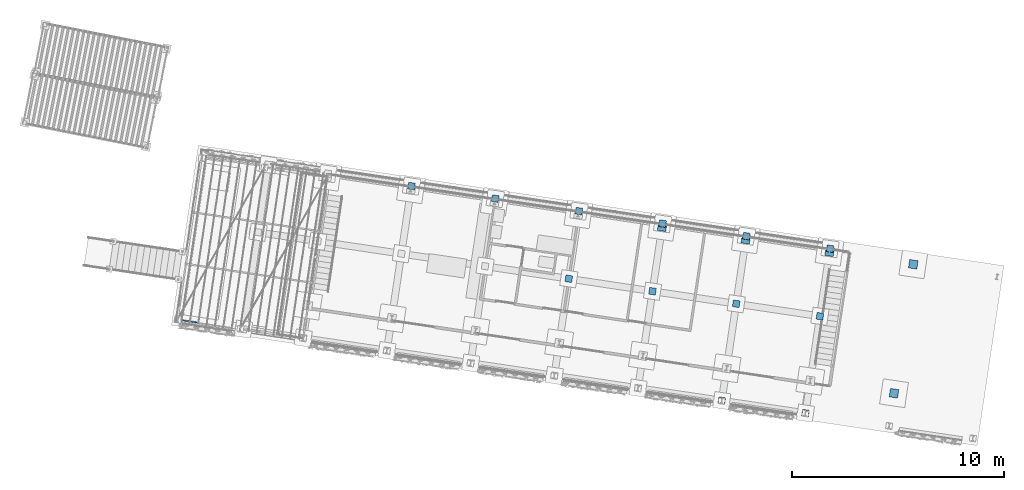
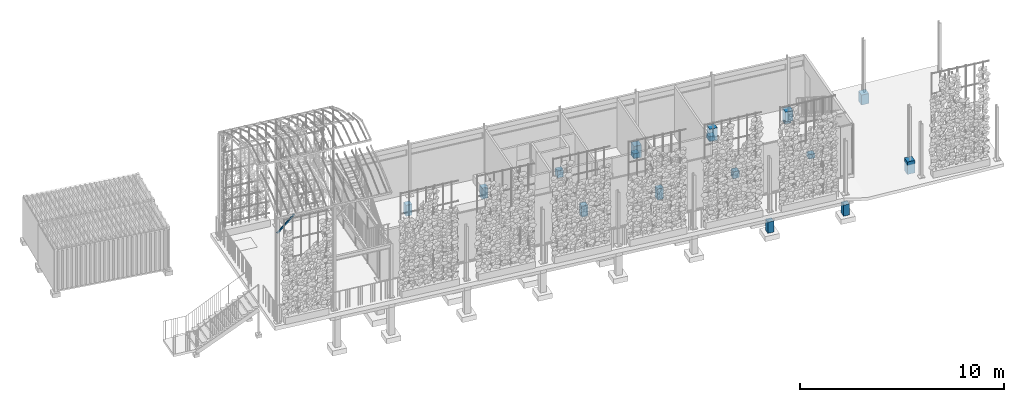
# One storey, part 7 of 142: 17 columns, 1 member, 2 elements without a shape of their own.
"""IFC4 building model written with IfcOpenShell, lengths in metres."""

from ifc_helpers import new_model, si_unit, direction, frame, origin_with_axes, place, context, subcontext, project, spatial, polyline, hollow_rectangle, outline, extrude, material, material_profile, profile_set, profile_usage, type_object, element, aggregate, save


model = new_model("IFC4")

# Units and contexts
model_context = context("Model", 3, precision=1e-05, world=origin_with_axes(), true_north=direction((0.0, 1.0)))
body_context = subcontext(model_context, "Body", "Model", "MODEL_VIEW")
ifc_project = project(units=[si_unit("AREAUNIT", "SQUARE_METRE"), si_unit("VOLUMEUNIT", "CUBIC_METRE"), si_unit("LENGTHUNIT", "METRE")], contexts=[model_context])

# Site, building, storey
site_placement = place(None, origin_with_axes())
site = spatial("IfcSite", under=ifc_project, at=site_placement, Name="Lares · Rua das Mercês · artigo 4771")
building_placement = place(site_placement, frame((15.0, 9.7, 14.65), z_axis=(0.0, 0.0, 1.0), x_axis=(0.989015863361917, -0.147809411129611, 0.0)))
building = spatial("IfcBuilding", under=site, at=building_placement, Name="Casa Sobreposta")
storey_placement = place(building_placement, origin_with_axes())
storey = spatial("IfcBuildingStorey", under=building, at=storey_placement, Name="00 · Habitação e estacionamento", Elevation=14.65)

# Columns
ifc_material_1 = material(Name="Betão armado / Stahlbeton", Category="concrete")
column_1_placement = place(storey_placement, frame((0.0, 0.0, -0.75), z_axis=(0.0, 0.0, 1.0), x_axis=(1.0, 0.0, 0.0)))
element("IfcColumn", 1, at=column_1_placement, inside=storey, material=ifc_material_1, Name="Pedestal 5B · betão 400 x 400", context=body_context, shape_type="SweptSolid", body=[
    extrude(outline(polyline([(16.2, 6.08), (16.2, 6.48), (15.8, 6.48), (15.8, 6.08), (16.2, 6.08)])), origin_with_axes(), (0.0, 0.0, 1.0), 0.75),
])
column_2_placement = place(storey_placement, frame((0.0, 0.0, -0.75), z_axis=(0.0, 0.0, 1.0), x_axis=(1.0, 0.0, 0.0)))
element("IfcColumn", 2, at=column_2_placement, inside=storey, material=ifc_material_1, Name="Pedestal 6B · betão 400 x 400", context=body_context, shape_type="SweptSolid", body=[
    extrude(outline(polyline([(20.2, 6.08), (20.2, 6.48), (19.8, 6.48), (19.8, 6.08), (20.2, 6.08)])), origin_with_axes(), (0.0, 0.0, 1.0), 0.75),
])
column_3_placement = place(storey_placement, frame((0.0, 0.0, -0.6), z_axis=(0.0, 0.0, 1.0), x_axis=(1.0, 0.0, 0.0)))
element("IfcColumn", 3, at=column_3_placement, inside=storey, material=ifc_material_1, Name="Pedestal 7B · betão 400 x 400", context=body_context, shape_type="SweptSolid", body=[
    extrude(outline(polyline([(24.2, 6.08), (24.2, 6.48), (23.8, 6.48), (23.8, 6.08), (24.2, 6.08)])), origin_with_axes(), (0.0, 0.0, 1.0), 0.6),
])
column_4_placement = place(storey_placement, frame((0.0, 0.0, -0.75), z_axis=(0.0, 0.0, 1.0), x_axis=(1.0, 0.0, 0.0)))
element("IfcColumn", 4, at=column_4_placement, inside=storey, material=ifc_material_1, Name="Pedestal 8A · betão 400 x 400", context=body_context, shape_type="SweptSolid", body=[
    extrude(outline(polyline([(28.2, -0.08), (28.2, 0.32), (27.8, 0.32), (27.8, -0.08), (28.2, -0.08)])), origin_with_axes(), (0.0, 0.0, 1.0), 0.75),
])
column_5_placement = place(storey_placement, frame((0.0, 0.0, -0.6), z_axis=(0.0, 0.0, 1.0), x_axis=(1.0, 0.0, 0.0)))
element("IfcColumn", 5, at=column_5_placement, inside=storey, material=ifc_material_1, Name="Pedestal 8B · betão 400 x 400", context=body_context, shape_type="SweptSolid", body=[
    extrude(outline(polyline([(28.2, 6.08), (28.2, 6.48), (27.8, 6.48), (27.8, 6.08), (28.2, 6.08)])), origin_with_axes(), (0.0, 0.0, 1.0), 0.6),
])

# Assembly, columns
assembly_1_placement = place(storey_placement, origin_with_axes())
assembly_1 = element("IfcElementAssembly", 6, at=assembly_1_placement, inside=storey, Name="Pódio · terraço, casa térrea e cisterna", ObjectType="CISTERN_PODIUM", PredefinedType="USERDEFINED")
column_6_placement = place(assembly_1_placement, frame((0.0, 0.0, -1.25), z_axis=(0.0, 0.0, 1.0), x_axis=(1.0, 0.0, 0.0)))
column_6 = element("IfcColumn", 7, at=column_6_placement, material=ifc_material_1, Name="Pódio suspenso · apoio sobre o terreno", context=body_context, shape_type="SweptSolid", body=[
    extrude(outline(polyline([(4.16, 6.27), (4.16, 6.59), (3.84, 6.59), (3.84, 6.27), (4.16, 6.27)])), origin_with_axes(), (0.0, 0.0, 1.0), 0.66),
])
column_7_placement = place(assembly_1_placement, frame((0.0, 0.0, -1.25), z_axis=(0.0, 0.0, 1.0), x_axis=(1.0, 0.0, 0.0)))
column_7 = element("IfcColumn", 8, at=column_7_placement, material=ifc_material_1, Name="Pódio suspenso · apoio sobre o terreno", context=body_context, shape_type="SweptSolid", body=[
    extrude(outline(polyline([(8.16, 6.27), (8.16, 6.59), (7.84, 6.59), (7.84, 6.27), (8.16, 6.27)])), origin_with_axes(), (0.0, 0.0, 1.0), 0.66),
])
column_8_placement = place(assembly_1_placement, frame((0.0, 0.0, -1.25), z_axis=(0.0, 0.0, 1.0), x_axis=(1.0, 0.0, 0.0)))
column_8 = element("IfcColumn", 9, at=column_8_placement, material=ifc_material_1, Name="Pódio suspenso · apoio sobre o terreno", context=body_context, shape_type="SweptSolid", body=[
    extrude(outline(polyline([(12.16, 3.04), (12.16, 3.36), (11.84, 3.36), (11.84, 3.04), (12.16, 3.04)])), origin_with_axes(), (0.0, 0.0, 1.0), 0.66),
])
column_9_placement = place(assembly_1_placement, frame((0.0, 0.0, -1.0), z_axis=(0.0, 0.0, 1.0), x_axis=(1.0, 0.0, 0.0)))
column_9 = element("IfcColumn", 10, at=column_9_placement, material=ifc_material_1, Name="Pódio suspenso · apoio sobre o terreno", context=body_context, shape_type="SweptSolid", body=[
    extrude(outline(polyline([(12.16, 6.27), (12.16, 6.59), (11.84, 6.59), (11.84, 6.27), (12.16, 6.27)])), origin_with_axes(), (0.0, 0.0, 1.0), 0.41),
])
column_10_placement = place(assembly_1_placement, frame((0.0, 0.0, -1.25), z_axis=(0.0, 0.0, 1.0), x_axis=(1.0, 0.0, 0.0)))
column_10 = element("IfcColumn", 11, at=column_10_placement, material=ifc_material_1, Name="Pódio suspenso · apoio sobre o terreno", context=body_context, shape_type="SweptSolid", body=[
    extrude(outline(polyline([(16.16, 3.04), (16.16, 3.36), (15.84, 3.36), (15.84, 3.04), (16.16, 3.04)])), origin_with_axes(), (0.0, 0.0, 1.0), 0.66),
])
column_11_placement = place(assembly_1_placement, frame((0.0, 0.0, -0.85), z_axis=(0.0, 0.0, 1.0), x_axis=(1.0, 0.0, 0.0)))
column_11 = element("IfcColumn", 12, at=column_11_placement, material=ifc_material_1, Name="Pódio suspenso · apoio sobre o terreno", context=body_context, shape_type="SweptSolid", body=[
    extrude(outline(polyline([(16.16, 6.27), (16.16, 6.59), (15.84, 6.59), (15.84, 6.27), (16.16, 6.27)])), origin_with_axes(), (0.0, 0.0, 1.0), 0.26),
])
column_12_placement = place(assembly_1_placement, frame((0.0, 0.0, -1.25), z_axis=(0.0, 0.0, 1.0), x_axis=(1.0, 0.0, 0.0)))
column_12 = element("IfcColumn", 13, at=column_12_placement, material=ifc_material_1, Name="Pódio suspenso · apoio sobre o terreno", context=body_context, shape_type="SweptSolid", body=[
    extrude(outline(polyline([(20.16, -1.59), (20.16, -1.27), (19.84, -1.27), (19.84, -1.59), (20.16, -1.59)])), origin_with_axes(), (0.0, 0.0, 1.0), 0.66),
])
column_13_placement = place(assembly_1_placement, frame((0.0, 0.0, -1.0), z_axis=(0.0, 0.0, 1.0), x_axis=(1.0, 0.0, 0.0)))
column_13 = element("IfcColumn", 14, at=column_13_placement, material=ifc_material_1, Name="Pódio suspenso · apoio sobre o terreno", context=body_context, shape_type="SweptSolid", body=[
    extrude(outline(polyline([(20.16, 3.04), (20.16, 3.36), (19.84, 3.36), (19.84, 3.04), (20.16, 3.04)])), origin_with_axes(), (0.0, 0.0, 1.0), 0.41),
])
column_14_placement = place(assembly_1_placement, frame((0.0, 0.0, -0.85), z_axis=(0.0, 0.0, 1.0), x_axis=(1.0, 0.0, 0.0)))
column_14 = element("IfcColumn", 15, at=column_14_placement, material=ifc_material_1, Name="Pódio suspenso · apoio sobre o terreno", context=body_context, shape_type="SweptSolid", body=[
    extrude(outline(polyline([(20.16, 6.27), (20.16, 6.59), (19.84, 6.59), (19.84, 6.27), (20.16, 6.27)])), origin_with_axes(), (0.0, 0.0, 1.0), 0.26),
])
column_15_placement = place(assembly_1_placement, frame((0.0, 0.0, -1.25), z_axis=(0.0, 0.0, 1.0), x_axis=(1.0, 0.0, 0.0)))
column_15 = element("IfcColumn", 16, at=column_15_placement, material=ifc_material_1, Name="Pódio suspenso · apoio sobre o terreno", context=body_context, shape_type="SweptSolid", body=[
    extrude(outline(polyline([(24.16, -1.59), (24.16, -1.27), (23.84, -1.27), (23.84, -1.59), (24.16, -1.59)])), origin_with_axes(), (0.0, 0.0, 1.0), 0.66),
])
column_16_placement = place(assembly_1_placement, frame((0.0, 0.0, -0.85), z_axis=(0.0, 0.0, 1.0), x_axis=(1.0, 0.0, 0.0)))
column_16 = element("IfcColumn", 17, at=column_16_placement, material=ifc_material_1, Name="Pódio suspenso · apoio sobre o terreno", context=body_context, shape_type="SweptSolid", body=[
    extrude(outline(polyline([(24.16, 3.04), (24.16, 3.36), (23.84, 3.36), (23.84, 3.04), (24.16, 3.04)])), origin_with_axes(), (0.0, 0.0, 1.0), 0.26),
])
column_17_placement = place(assembly_1_placement, frame((0.0, 0.0, -0.85), z_axis=(0.0, 0.0, 1.0), x_axis=(1.0, 0.0, 0.0)))
column_17 = element("IfcColumn", 18, at=column_17_placement, material=ifc_material_1, Name="Pódio suspenso · apoio sobre o terreno", context=body_context, shape_type="SweptSolid", body=[
    extrude(outline(polyline([(24.16, 6.27), (24.16, 6.59), (23.84, 6.59), (23.84, 6.27), (24.16, 6.27)])), origin_with_axes(), (0.0, 0.0, 1.0), 0.26),
])
aggregate(assembly_1, [column_6, column_7, column_8, column_9, column_10, column_11, column_12, column_13, column_14, column_15, column_16, column_17])

# Assembly, member
assembly_2_placement = place(storey_placement, origin_with_axes())
assembly_2 = element("IfcElementAssembly", 19, at=assembly_2_placement, inside=storey, Name="Pérgola · prolongamento da estufa 6 m", ObjectType="PERGOLA_GREENHOUSE_EXTENSION", PredefinedType="USERDEFINED")
ifc_material_2 = material(Name="Aço pintado / Stahl lackiert", Category="steel")
ifc_material_profile = material_profile(ifc_material_2, hollow_rectangle(XDim=0.06, YDim=0.08, WallThickness=0.004))
ifc_profile_set = profile_set([ifc_material_profile], Name="RHS80x60x4")
ifc_profile_usage = profile_usage(ifc_profile_set)
member_type = type_object("IfcMemberType", Name="RHS80x60x4 / steel", PredefinedType="NOTDEFINED", material=ifc_profile_set)
member_placement = place(assembly_2_placement, frame((-6.0, -1.44, 5.3), z_axis=(0.699294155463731, 0.0, 0.714834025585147), x_axis=(0.0, -1.0, 0.0)))
member = element("IfcMember", 20, at=member_placement, type_object=member_type, material=ifc_profile_usage, Name="Pérgola · escora alta", context=body_context, shape_type="SweptSolid", body=[
    extrude(hollow_rectangle(XDim=0.06, YDim=0.08, WallThickness=0.004), origin_with_axes(), (0.0, 0.0, 1.0), 1.28701204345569),
])
aggregate(assembly_2, [member])

save(model, "model.ifc")
